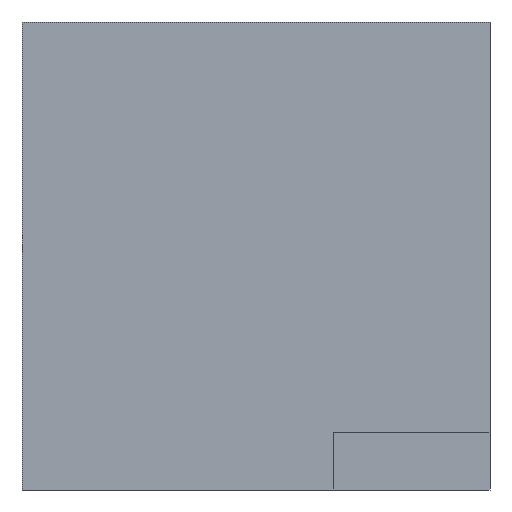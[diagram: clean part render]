
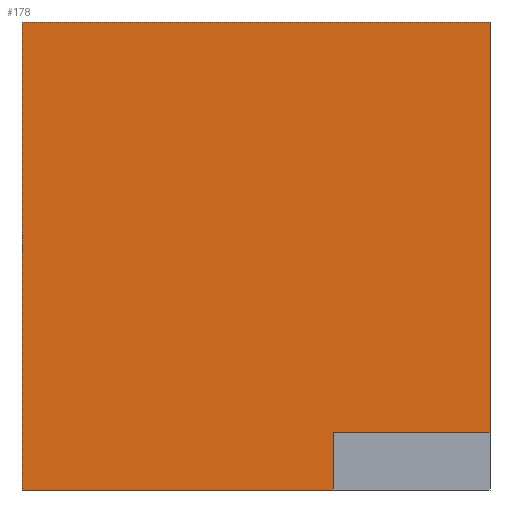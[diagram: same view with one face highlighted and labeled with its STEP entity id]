
A CAD part, front view. The second image highlights one B-rep face of the part: STEP entity #178.
In plain terms, the highlighted planar face has unit normal (0, -1, 0).
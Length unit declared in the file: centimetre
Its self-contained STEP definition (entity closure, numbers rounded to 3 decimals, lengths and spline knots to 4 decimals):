
#1 = EDGE_CURVE ( 'NONE', #358, #274, #113, .T. ) ;
#44 = ORIENTED_EDGE ( 'NONE', *, *, #416, .F. ) ;
#49 = VECTOR ( 'NONE', #87, 100. ) ;
#65 = VECTOR ( 'NONE', #282, 100. ) ;
#70 = DIRECTION ( 'NONE',  ( 0., 1., 0. ) ) ;
#87 = DIRECTION ( 'NONE',  ( 1., 0., 0. ) ) ;
#113 = LINE ( 'NONE', #394, #589 ) ;
#132 = LINE ( 'NONE', #517, #505 ) ;
#135 = EDGE_CURVE ( 'NONE', #427, #274, #171, .T. ) ;
#171 = LINE ( 'NONE', #541, #411 ) ;
#178 = ADVANCED_FACE ( 'NONE', ( #307 ), #342, .F. ) ;
#193 = DIRECTION ( 'NONE',  ( 1., 0., 0. ) ) ;
#202 = DIRECTION ( 'NONE',  ( 0., 0., 1. ) ) ;
#205 = EDGE_CURVE ( 'NONE', #337, #235, #346, .T. ) ;
#206 = CARTESIAN_POINT ( 'NONE',  ( 664.5647, 0., 121.9265 ) ) ;
#225 = CARTESIAN_POINT ( 'NONE',  ( 0., 0., 1000. ) ) ;
#235 = VERTEX_POINT ( 'NONE', #437 ) ;
#253 = CARTESIAN_POINT ( 'NONE',  ( 0., 0., 1000. ) ) ;
#255 = DIRECTION ( 'NONE',  ( 0., 0., -1. ) ) ;
#273 = CARTESIAN_POINT ( 'NONE',  ( 0., 0., 0. ) ) ;
#274 = VERTEX_POINT ( 'NONE', #528 ) ;
#280 = ORIENTED_EDGE ( 'NONE', *, *, #444, .T. ) ;
#282 = DIRECTION ( 'NONE',  ( 0., 0., -1. ) ) ;
#295 = EDGE_LOOP ( 'NONE', ( #529, #573, #44, #569, #280, #443 ) ) ;
#303 = CARTESIAN_POINT ( 'NONE',  ( 0., 0., 1000. ) ) ;
#307 = FACE_OUTER_BOUND ( 'NONE', #295, .T. ) ;
#337 = VERTEX_POINT ( 'NONE', #253 ) ;
#342 = PLANE ( 'NONE',  #464 ) ;
#346 = LINE ( 'NONE', #398, #539 ) ;
#352 = CARTESIAN_POINT ( 'NONE',  ( 1000., 0., 121.9265 ) ) ;
#358 = VERTEX_POINT ( 'NONE', #206 ) ;
#359 = VERTEX_POINT ( 'NONE', #352 ) ;
#394 = CARTESIAN_POINT ( 'NONE',  ( 664.5647, 0., 0. ) ) ;
#398 = CARTESIAN_POINT ( 'NONE',  ( 0., 0., 1000. ) ) ;
#411 = VECTOR ( 'NONE', #504, 100. ) ;
#416 = EDGE_CURVE ( 'NONE', #235, #359, #132, .T. ) ;
#419 = EDGE_CURVE ( 'NONE', #358, #359, #551, .T. ) ;
#421 = CARTESIAN_POINT ( 'NONE',  ( 664.5647, 0., 121.9265 ) ) ;
#427 = VERTEX_POINT ( 'NONE', #273 ) ;
#437 = CARTESIAN_POINT ( 'NONE',  ( 1000., 0., 1000. ) ) ;
#443 = ORIENTED_EDGE ( 'NONE', *, *, #135, .T. ) ;
#444 = EDGE_CURVE ( 'NONE', #337, #427, #554, .T. ) ;
#464 = AXIS2_PLACEMENT_3D ( 'NONE', #303, #70, #202 ) ;
#473 = DIRECTION ( 'NONE',  ( 0., 0., -1. ) ) ;
#504 = DIRECTION ( 'NONE',  ( 1., 0., 0. ) ) ;
#505 = VECTOR ( 'NONE', #473, 100. ) ;
#517 = CARTESIAN_POINT ( 'NONE',  ( 1000., 0., 1000. ) ) ;
#528 = CARTESIAN_POINT ( 'NONE',  ( 664.5647, 0., 0. ) ) ;
#529 = ORIENTED_EDGE ( 'NONE', *, *, #1, .F. ) ;
#539 = VECTOR ( 'NONE', #193, 100. ) ;
#541 = CARTESIAN_POINT ( 'NONE',  ( 0., 0., 0. ) ) ;
#551 = LINE ( 'NONE', #421, #49 ) ;
#554 = LINE ( 'NONE', #225, #65 ) ;
#569 = ORIENTED_EDGE ( 'NONE', *, *, #205, .F. ) ;
#573 = ORIENTED_EDGE ( 'NONE', *, *, #419, .T. ) ;
#589 = VECTOR ( 'NONE', #255, 100. ) ;
